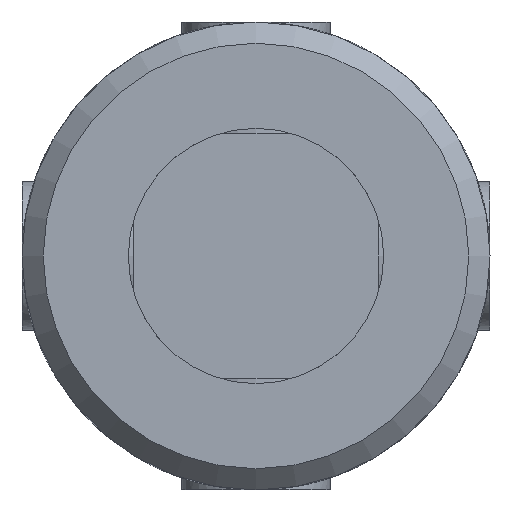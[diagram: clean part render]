
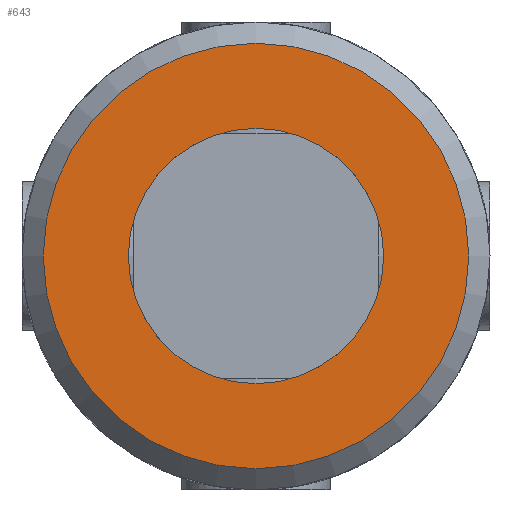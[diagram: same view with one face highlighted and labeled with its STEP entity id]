
A CAD part, front view. The second image highlights one B-rep face of the part: STEP entity #643.
In plain terms, the highlighted planar face has unit normal (0, -1, 0).
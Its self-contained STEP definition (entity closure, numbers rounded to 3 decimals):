
#124=PLANE('',#706);
#150=FACE_BOUND('',#232,.T.);
#174=FACE_OUTER_BOUND('',#231,.T.);
#231=EDGE_LOOP('',(#510));
#232=EDGE_LOOP('',(#511));
#269=CIRCLE('',#695,6.);
#275=CIRCLE('',#704,10.);
#312=VERTEX_POINT('',#1047);
#318=VERTEX_POINT('',#1094);
#377=EDGE_CURVE('',#312,#312,#269,.T.);
#385=EDGE_CURVE('',#318,#318,#275,.T.);
#510=ORIENTED_EDGE('',*,*,#385,.F.);
#511=ORIENTED_EDGE('',*,*,#377,.T.);
#643=ADVANCED_FACE('',(#174,#150),#124,.F.);
#695=AXIS2_PLACEMENT_3D('',#1048,#815,#816);
#704=AXIS2_PLACEMENT_3D('',#1095,#833,#834);
#706=AXIS2_PLACEMENT_3D('',#1271,#841,#842);
#815=DIRECTION('center_axis',(0.,1.,0.));
#816=DIRECTION('ref_axis',(-1.,0.,0.));
#833=DIRECTION('center_axis',(0.,1.,0.));
#834=DIRECTION('ref_axis',(1.,0.,0.));
#841=DIRECTION('center_axis',(0.,1.,0.));
#842=DIRECTION('ref_axis',(0.,0.,1.));
#1047=CARTESIAN_POINT('',(6.,-36.5,0.));
#1048=CARTESIAN_POINT('Origin',(0.,-36.5,0.));
#1094=CARTESIAN_POINT('',(-10.,-36.5,0.));
#1095=CARTESIAN_POINT('Origin',(0.,-36.5,0.));
#1271=CARTESIAN_POINT('Origin',(0.,-36.5,0.));
